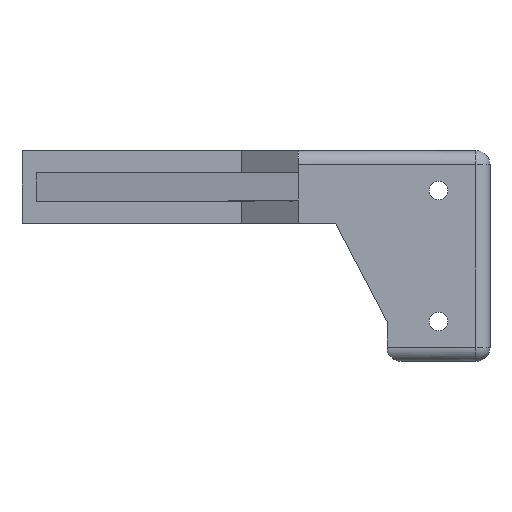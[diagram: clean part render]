
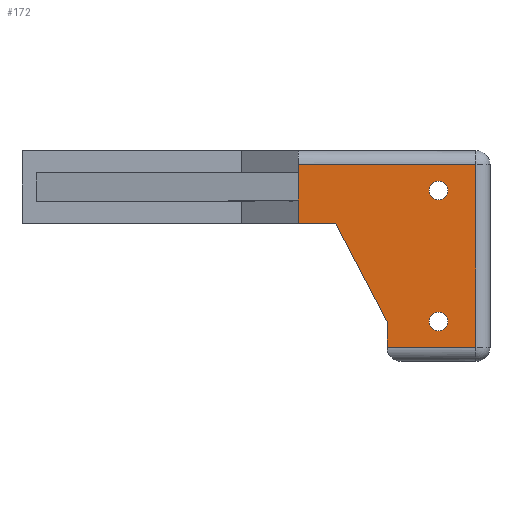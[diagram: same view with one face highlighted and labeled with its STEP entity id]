
A CAD part, top view. The second image highlights one B-rep face of the part: STEP entity #172.
In plain terms, the highlighted planar face has unit normal (0, 0, 1).
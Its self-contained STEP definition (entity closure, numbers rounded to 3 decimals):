
#43=CARTESIAN_POINT('',(-41.,-3.,6.));
#44=VERTEX_POINT('',#43);
#52=CARTESIAN_POINT('',(-3.,-3.,6.));
#53=VERTEX_POINT('',#52);
#54=CARTESIAN_POINT('',(-3.,-3.,6.));
#55=DIRECTION('',(-1.,0.,0.));
#56=VECTOR('',#55,38.);
#57=LINE('',#54,#56);
#58=EDGE_CURVE('',#53,#44,#57,.T.);
#78=CARTESIAN_POINT('',(0.,0.,6.));
#79=DIRECTION('',(0.,0.,1.));
#80=DIRECTION('',(-1.,0.,0.));
#81=AXIS2_PLACEMENT_3D('',#78,#79,#80);
#82=PLANE('',#81);
#83=CARTESIAN_POINT('',(-41.,-15.5,6.));
#84=VERTEX_POINT('',#83);
#85=CARTESIAN_POINT('',(-33.,-15.5,6.));
#86=VERTEX_POINT('',#85);
#87=CARTESIAN_POINT('',(-41.,-15.5,6.));
#88=DIRECTION('',(1.,-0.,-0.));
#89=VECTOR('',#88,8.);
#90=LINE('',#87,#89);
#91=EDGE_CURVE('',#84,#86,#90,.T.);
#92=ORIENTED_EDGE('',*,*,#91,.T.);
#93=CARTESIAN_POINT('',(-22.,-36.5,6.));
#94=VERTEX_POINT('',#93);
#95=CARTESIAN_POINT('',(-22.,-36.5,6.));
#96=DIRECTION('',(-0.464,0.886,-0.));
#97=VECTOR('',#96,23.707);
#98=LINE('',#95,#97);
#99=EDGE_CURVE('',#94,#86,#98,.T.);
#100=ORIENTED_EDGE('',*,*,#99,.F.);
#101=CARTESIAN_POINT('',(-22.,-42.,6.));
#102=VERTEX_POINT('',#101);
#103=CARTESIAN_POINT('',(-22.,-36.5,6.));
#104=DIRECTION('',(-0.,-1.,0.));
#105=VECTOR('',#104,5.5);
#106=LINE('',#103,#105);
#107=EDGE_CURVE('',#94,#102,#106,.T.);
#108=ORIENTED_EDGE('',*,*,#107,.T.);
#109=CARTESIAN_POINT('',(-3.,-42.,6.));
#110=VERTEX_POINT('',#109);
#111=CARTESIAN_POINT('',(-22.,-42.,6.));
#112=DIRECTION('',(1.,-0.,-0.));
#113=VECTOR('',#112,19.);
#114=LINE('',#111,#113);
#115=EDGE_CURVE('',#102,#110,#114,.T.);
#116=ORIENTED_EDGE('',*,*,#115,.T.);
#117=CARTESIAN_POINT('',(-3.,-42.,6.));
#118=DIRECTION('',(0.,1.,-0.));
#119=VECTOR('',#118,39.);
#120=LINE('',#117,#119);
#121=EDGE_CURVE('',#110,#53,#120,.T.);
#122=ORIENTED_EDGE('',*,*,#121,.T.);
#123=ORIENTED_EDGE('',*,*,#58,.T.);
#124=CARTESIAN_POINT('',(-41.,-15.5,6.));
#125=DIRECTION('',(-0.,1.,-0.));
#126=VECTOR('',#125,12.5);
#127=LINE('',#124,#126);
#128=EDGE_CURVE('',#84,#44,#127,.T.);
#129=ORIENTED_EDGE('',*,*,#128,.F.);
#130=EDGE_LOOP('',(#92,#100,#108,#116,#122,#123,#129));
#131=FACE_BOUND('',#130,.T.);
#132=CARTESIAN_POINT('',(-9.,-36.5,6.));
#133=VERTEX_POINT('',#132);
#134=CARTESIAN_POINT('',(-13.,-36.5,6.));
#135=VERTEX_POINT('',#134);
#136=CARTESIAN_POINT('',(-11.,-36.5,6.));
#137=DIRECTION('',(-0.,-0.,-1.));
#138=DIRECTION('',(1.,0.,-0.));
#139=AXIS2_PLACEMENT_3D('',#136,#137,#138);
#140=CIRCLE('',#139,2.);
#141=EDGE_CURVE('',#133,#135,#140,.T.);
#142=ORIENTED_EDGE('',*,*,#141,.T.);
#143=CARTESIAN_POINT('',(-11.,-36.5,6.));
#144=DIRECTION('',(-0.,-0.,-1.));
#145=DIRECTION('',(1.,0.,-0.));
#146=AXIS2_PLACEMENT_3D('',#143,#144,#145);
#147=CIRCLE('',#146,2.);
#148=EDGE_CURVE('',#135,#133,#147,.T.);
#149=ORIENTED_EDGE('',*,*,#148,.T.);
#150=EDGE_LOOP('',(#142,#149));
#151=FACE_BOUND('',#150,.T.);
#152=CARTESIAN_POINT('',(-9.,-8.5,6.));
#153=VERTEX_POINT('',#152);
#154=CARTESIAN_POINT('',(-13.,-8.5,6.));
#155=VERTEX_POINT('',#154);
#156=CARTESIAN_POINT('',(-11.,-8.5,6.));
#157=DIRECTION('',(-0.,-0.,-1.));
#158=DIRECTION('',(1.,0.,-0.));
#159=AXIS2_PLACEMENT_3D('',#156,#157,#158);
#160=CIRCLE('',#159,2.);
#161=EDGE_CURVE('',#153,#155,#160,.T.);
#162=ORIENTED_EDGE('',*,*,#161,.T.);
#163=CARTESIAN_POINT('',(-11.,-8.5,6.));
#164=DIRECTION('',(-0.,-0.,-1.));
#165=DIRECTION('',(1.,0.,-0.));
#166=AXIS2_PLACEMENT_3D('',#163,#164,#165);
#167=CIRCLE('',#166,2.);
#168=EDGE_CURVE('',#155,#153,#167,.T.);
#169=ORIENTED_EDGE('',*,*,#168,.T.);
#170=EDGE_LOOP('',(#162,#169));
#171=FACE_BOUND('',#170,.T.);
#172=ADVANCED_FACE('',(#131,#151,#171),#82,.T.);
